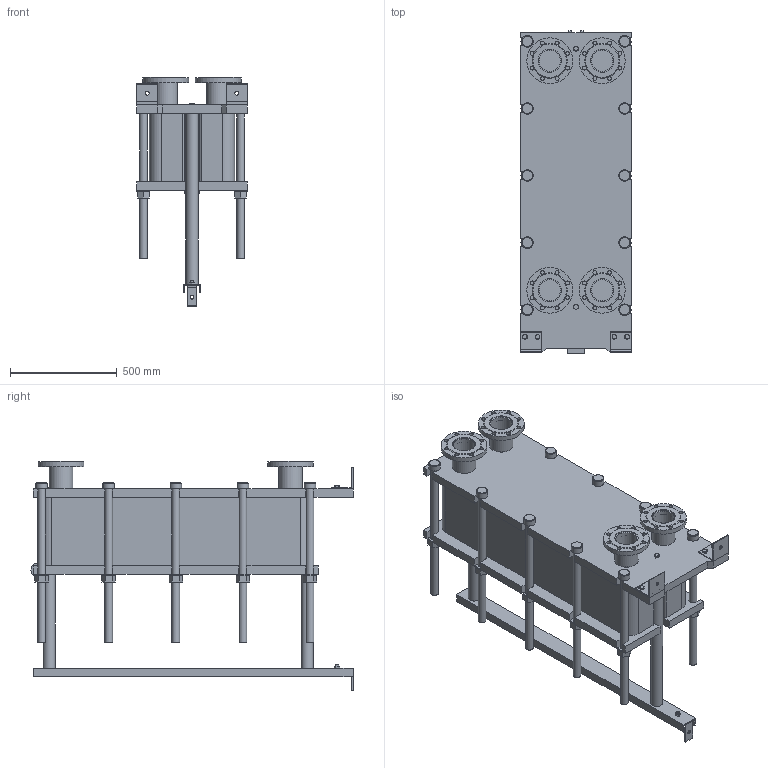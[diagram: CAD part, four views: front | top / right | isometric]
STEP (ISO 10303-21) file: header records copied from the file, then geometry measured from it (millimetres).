
FILE_DESCRIPTION(/* description */ (''),/* implementation_level */ '2;1');
FILE_NAME(/* name */ 'C:\Users\zhuro\Desktop\ENCO\TO\ЭН-04\ЭН-0,5-04-93-1.stp',/* time_stamp */ '2022-06-06T10:53:12+03:00',/* author */ ('zhuro'),/* organization */ (''),/* preprocessor_version */ 'ST-DEVELOPER v18.1',/* originating_system */ 'Autodesk Inventor 2022',/* authorisation */ '');
FILE_SCHEMA (('AUTOMOTIVE_DESIGN { 1 0 10303 214 3 1 1 }'));
Length unit declared in the file: millimetre
Products named in the file (1): ЭН-0,5-04-93-1
Bounding box: 520 x 1510 x 1076.5 mm (x, y, z)
Volume: 231175762.1 mm3; surface area: 8201331.3 mm2
Topology: 45 solids, 45 shells, 668 faces, 1611 edges, 1048 vertices
Faces by surface type: plane 457, cylinder 166, cone 39, torus 6
Full cylindrical faces by diameter (mm): 8 x4, 10 x2, 16 x8, 18 x35, 36 x25, 40 x2, 42 x1, 45 x4, 54 x10, 57 x2, 60 x10, 68 x2, 100 x4, 110 x8, 215 x4
Entity records: 23607 total; most frequent: CARTESIAN_POINT 7348, DIRECTION 3371, ORIENTED_EDGE 3142, EDGE_CURVE 1571, AXIS2_PLACEMENT_3D 1199, VERTEX_POINT 1044, LINE 973, VECTOR 973
